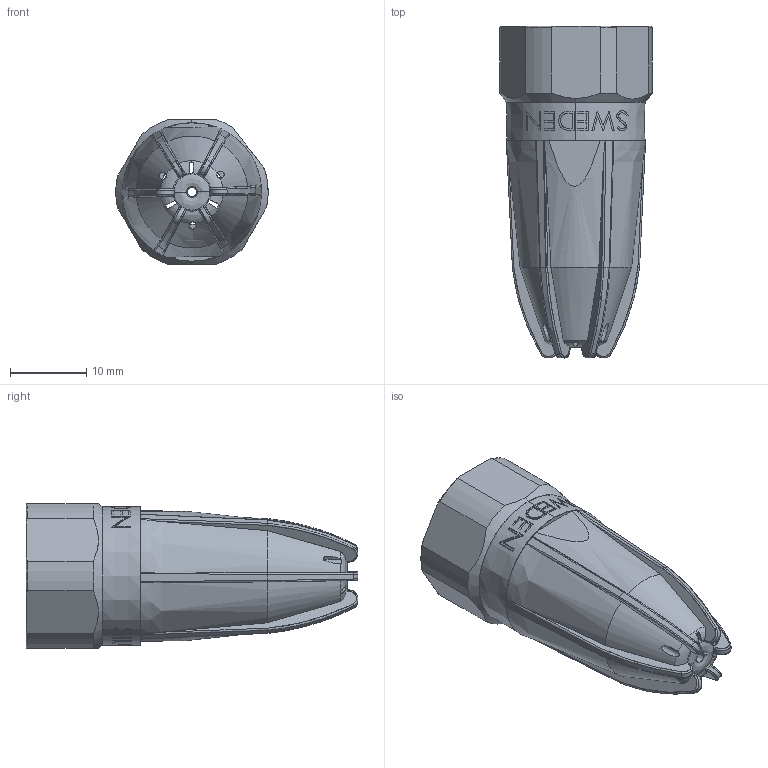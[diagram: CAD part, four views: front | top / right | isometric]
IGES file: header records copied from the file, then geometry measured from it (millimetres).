
Start section: SolidWorks IGES file using analytic representation for surfaces
Global section: file name: G:\Silvent\Ritningar\Övrigt\IGES\Silvent 208 L.IGS; native system: SolidWorks 2010; preprocessor: SolidWorks 2010; author: silvpesv; date: 100602.085630; units: millimetre
Bounding box: 20.04 x 43.65 x 19 mm (x, y, z)
Surface area: 5215.6 mm2 (no closed solid volume)
Topology: 0 solids, 0 shells, 417 faces, 4627 edges, 4615 vertices
Faces by surface type: bspline 311, revolution 106
